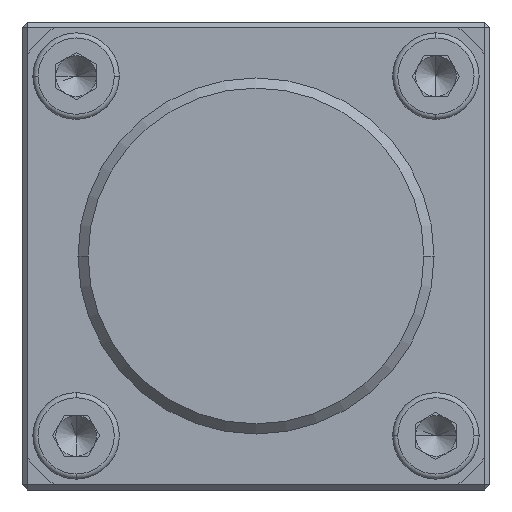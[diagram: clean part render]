
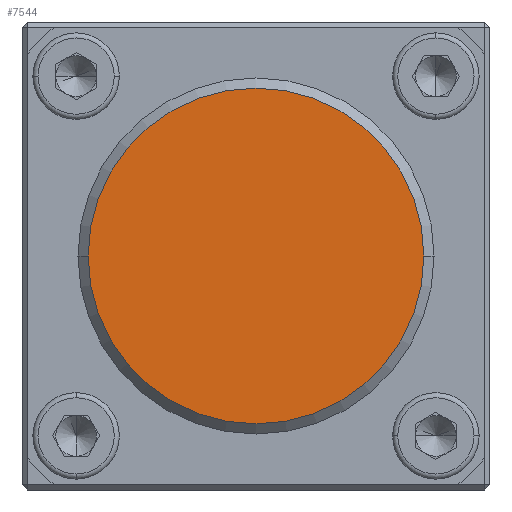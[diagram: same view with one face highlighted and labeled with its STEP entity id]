
A CAD part, left-side view. The second image highlights one B-rep face of the part: STEP entity #7544.
In plain terms, the highlighted planar face has unit normal (-1, 0, 0).
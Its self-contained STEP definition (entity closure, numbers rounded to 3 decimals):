
#3454 = DIRECTION ( 'NONE',  ( -1., 0., 0. ) ) ;
#4332 = CIRCLE ( 'NONE', #12021, 16.5 ) ;
#4377 = AXIS2_PLACEMENT_3D ( 'NONE', #7732, #3454, #10159 ) ;
#7296 = CARTESIAN_POINT ( 'NONE',  ( -15.3, 16.5, 0. ) ) ;
#7544 = ADVANCED_FACE ( 'NONE', ( #13136 ), #9287, .T. ) ;
#7732 = CARTESIAN_POINT ( 'NONE',  ( -15.3, 0., 0. ) ) ;
#8376 = CIRCLE ( 'NONE', #4377, 16.5 ) ;
#9287 = PLANE ( 'NONE',  #20347 ) ;
#10159 = DIRECTION ( 'NONE',  ( 0., 1., 0. ) ) ;
#11923 = CARTESIAN_POINT ( 'NONE',  ( -15.3, 0., 0. ) ) ;
#12021 = AXIS2_PLACEMENT_3D ( 'NONE', #11923, #12117, #23626 ) ;
#12117 = DIRECTION ( 'NONE',  ( -1., 0., 0. ) ) ;
#13136 = FACE_OUTER_BOUND ( 'NONE', #13859, .T. ) ;
#13660 = VERTEX_POINT ( 'NONE', #20029 ) ;
#13859 = EDGE_LOOP ( 'NONE', ( #26296, #26526 ) ) ;
#14700 = VERTEX_POINT ( 'NONE', #7296 ) ;
#15854 = DIRECTION ( 'NONE',  ( 0., 1., 0. ) ) ;
#20029 = CARTESIAN_POINT ( 'NONE',  ( -15.3, -16.5, 0. ) ) ;
#20139 = EDGE_CURVE ( 'NONE', #14700, #13660, #8376, .T. ) ;
#20347 = AXIS2_PLACEMENT_3D ( 'NONE', #27785, #20818, #15854 ) ;
#20818 = DIRECTION ( 'NONE',  ( -1., 0., 0. ) ) ;
#23626 = DIRECTION ( 'NONE',  ( 0., 1., 0. ) ) ;
#25911 = EDGE_CURVE ( 'NONE', #13660, #14700, #4332, .T. ) ;
#26296 = ORIENTED_EDGE ( 'NONE', *, *, #25911, .T. ) ;
#26526 = ORIENTED_EDGE ( 'NONE', *, *, #20139, .T. ) ;
#27785 = CARTESIAN_POINT ( 'NONE',  ( -15.3, 0., -17.5 ) ) ;
